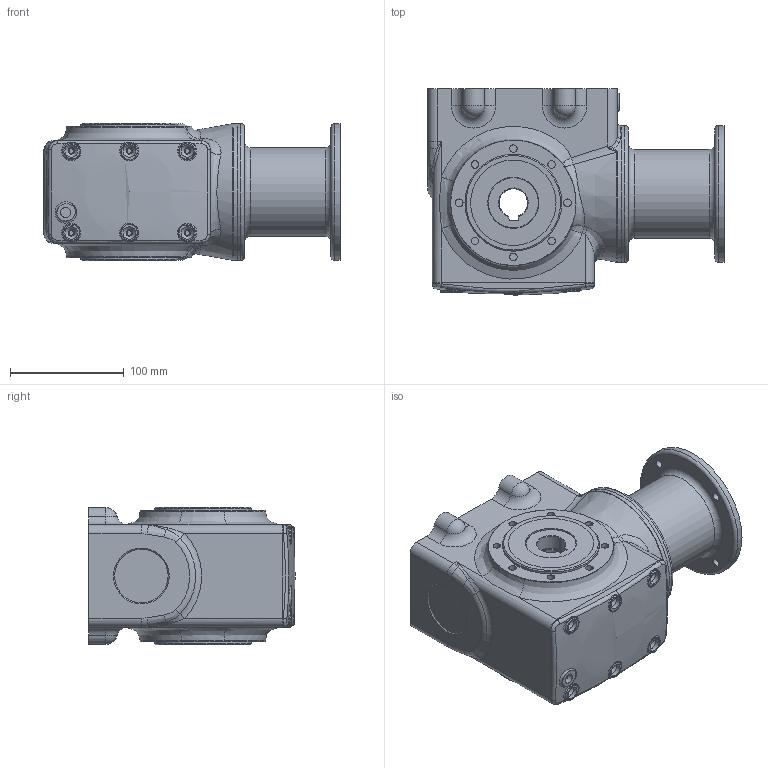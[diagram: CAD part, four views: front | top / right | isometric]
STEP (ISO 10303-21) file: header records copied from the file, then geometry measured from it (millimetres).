
FILE_DESCRIPTION(/* description */ (''),/* implementation_level */ '2;1');
FILE_NAME(/* name */ 'Z:\Dertec\RVS pakket tekeningen\Kasten\FSA + FS serie\FS\FS48\Step Customer\FS48 HA25 AMFL 80B14A #.stp',/* time_stamp */ '2017-12-08T09:52:39+01:00',/* author */ ('Dertec'),/* organization */ (''),/* preprocessor_version */ 'ST-DEVELOPER v16.1',/* originating_system */ 'Autodesk Inventor 2016',/* authorisation */ '');
FILE_SCHEMA (('AUTOMOTIVE_DESIGN { 1 0 10303 214 3 1 1 }'));
Length unit declared in the file: inch
Products named in the file (1): Part20
Bounding box: 260 x 181 x 121 mm (x, y, z)
Volume: 2724371.5 mm3; surface area: 282816 mm2
Topology: 1 solids, 7 shells, 463 faces, 1031 edges, 644 vertices
Faces by surface type: cylinder 164, plane 137, bspline 79, torus 40, cone 37, sphere 6
Full cylindrical faces by diameter (mm): 4.134 x6, 4.917 x4, 5.5 x6, 6.647 x15, 7 x8, 8.376 x8, 8.917 x1, 11 x6, 14 x8, 44.8 x1, 44.9 x4, 45 x2, 46 x1, 47 x2, 49.5 x1, 62 x1, 68 x2, 68.6 x1, 69 x1, 71 x1, 72 x1, 75 x3, 78 x3, 80 x2, 84 x2, 85 x2, 86 x1, 87 x1, 120 x3
Entity records: 18035 total; most frequent: CARTESIAN_POINT 8412, DIRECTION 1845, ORIENTED_EDGE 1670, EDGE_CURVE 835, AXIS2_PLACEMENT_3D 834, EDGE_LOOP 690, VERTEX_POINT 597, STYLED_ITEM 464
